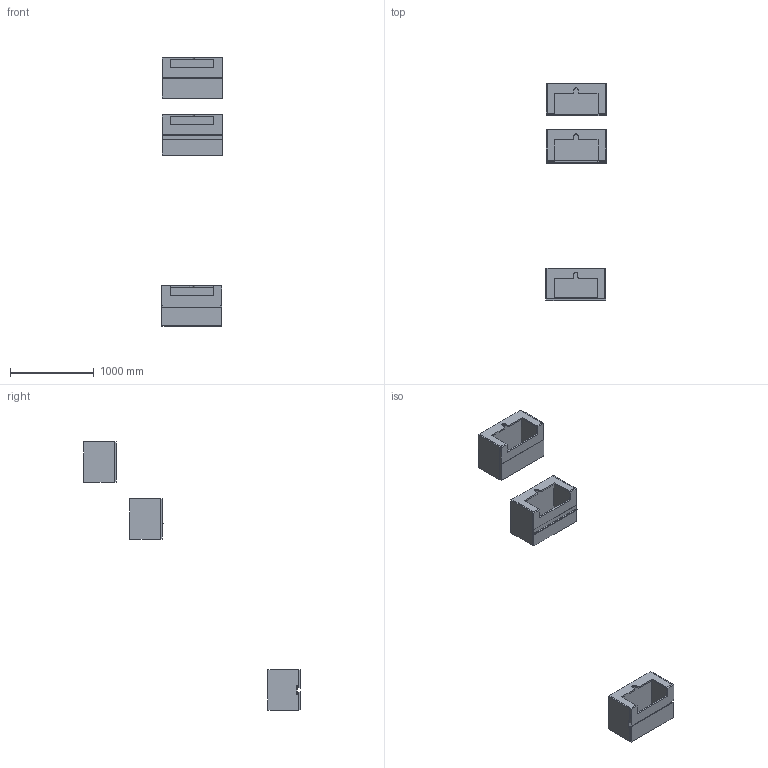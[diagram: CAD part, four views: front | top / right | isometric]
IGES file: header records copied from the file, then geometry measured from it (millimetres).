
Start section: Data from Parasolid IGES Translator 19.0.9, Copyright(c) 2006 Siemens PL M Software. All Rights Reserved.
Global section: file name: noorth-SI-H 48 D 38,8 W 72_8395.igs; native system: By Siemens PLM Incorporated; preprocessor: XPlus GENERIC/IGES 19.0.9; author: Noname; organization: Noname; date: 20200601.101800; units: metre
Bounding box: 724.28 x 2585.1 x 3200.81 mm (x, y, z)
Volume: 53901408.7 mm3; surface area: 8705783.1 mm2
Topology: 23 solids, 23 shells, 301 faces, 741 edges, 476 vertices
Faces by surface type: plane 230, cylinder 35, extrusion 20, bspline 16
